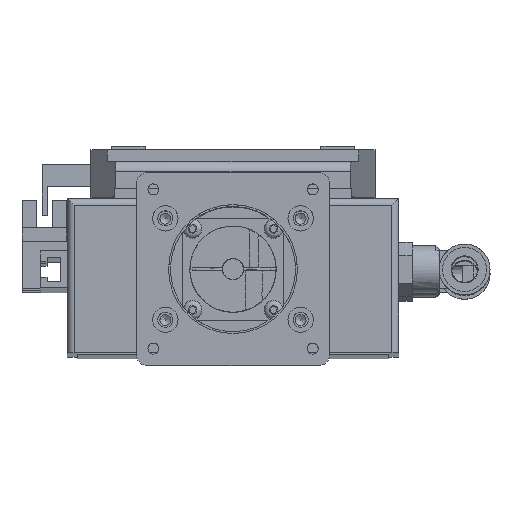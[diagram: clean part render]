
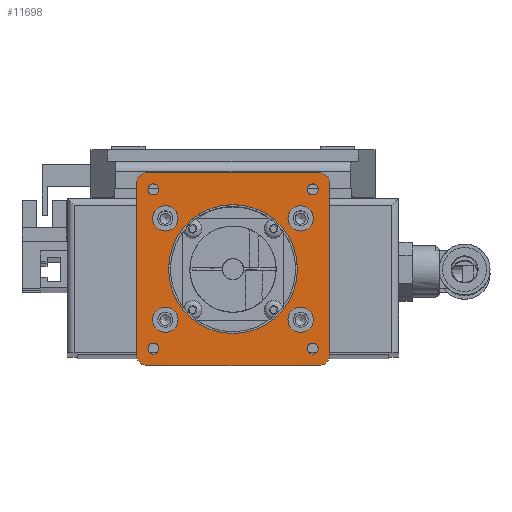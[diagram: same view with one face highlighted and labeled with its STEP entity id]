
A CAD part, top view. The second image highlights one B-rep face of the part: STEP entity #11698.
In plain terms, the highlighted planar face has unit normal (0, 0, 1).
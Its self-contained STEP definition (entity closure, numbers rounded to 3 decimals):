
#11116=CARTESIAN_POINT('',(0.0,3.,0.0));
#11117=VERTEX_POINT('',#11116);
#11124=CARTESIAN_POINT('',(0.0,54.0,0.0));
#11125=VERTEX_POINT('',#11124);
#11126=CARTESIAN_POINT('',(0.0,54.0,0.0));
#11127=DIRECTION('',(0.0,-1.0,0.0));
#11128=VECTOR('',#11127,51.0);
#11129=LINE('',#11126,#11128);
#11130=EDGE_CURVE('',#11125,#11117,#11129,.T.);
#11522=CARTESIAN_POINT('',(3.,0.0,0.0));
#11523=VERTEX_POINT('',#11522);
#11530=CARTESIAN_POINT('',(3.,3.,0.0));
#11531=DIRECTION('',(0.0,0.0,-1.0));
#11532=DIRECTION('',(-0.707,-0.707,0.0));
#11533=AXIS2_PLACEMENT_3D('',#11530,#11531,#11532);
#11534=CIRCLE('',#11533,3.0);
#11535=EDGE_CURVE('',#11523,#11117,#11534,.T.);
#11541=CARTESIAN_POINT('',(28.5,28.5,0.0));
#11542=DIRECTION('',(0.0,0.0,1.0));
#11543=DIRECTION('',(1.0,0.0,0.0));
#11544=AXIS2_PLACEMENT_3D('',#11541,#11542,#11543);
#11545=PLANE('',#11544);
#11546=ORIENTED_EDGE('',*,*,#11535,.F.);
#11547=CARTESIAN_POINT('',(54.0,0.0,0.0));
#11548=VERTEX_POINT('',#11547);
#11549=CARTESIAN_POINT('',(3.,0.0,0.0));
#11550=DIRECTION('',(1.0,0.0,0.0));
#11551=VECTOR('',#11550,51.0);
#11552=LINE('',#11549,#11551);
#11553=EDGE_CURVE('',#11523,#11548,#11552,.T.);
#11554=ORIENTED_EDGE('',*,*,#11553,.T.);
#11555=CARTESIAN_POINT('',(57.0,3.,0.0));
#11556=VERTEX_POINT('',#11555);
#11557=CARTESIAN_POINT('',(54.0,3.,0.0));
#11558=DIRECTION('',(0.0,0.0,-1.));
#11559=DIRECTION('',(0.707,-0.707,0.0));
#11560=AXIS2_PLACEMENT_3D('',#11557,#11558,#11559);
#11561=CIRCLE('',#11560,3.0);
#11562=EDGE_CURVE('',#11556,#11548,#11561,.T.);
#11563=ORIENTED_EDGE('',*,*,#11562,.F.);
#11564=CARTESIAN_POINT('',(57.,54.,0.0));
#11565=VERTEX_POINT('',#11564);
#11566=CARTESIAN_POINT('',(57.0,3.,0.0));
#11567=DIRECTION('',(0.0,1.0,0.0));
#11568=VECTOR('',#11567,51.);
#11569=LINE('',#11566,#11568);
#11570=EDGE_CURVE('',#11556,#11565,#11569,.T.);
#11571=ORIENTED_EDGE('',*,*,#11570,.T.);
#11572=CARTESIAN_POINT('',(54.,57.,0.0));
#11573=VERTEX_POINT('',#11572);
#11574=CARTESIAN_POINT('',(54.,54.,0.0));
#11575=DIRECTION('',(0.0,0.0,-1.));
#11576=DIRECTION('',(0.707,0.707,0.0));
#11577=AXIS2_PLACEMENT_3D('',#11574,#11575,#11576);
#11578=CIRCLE('',#11577,3.);
#11579=EDGE_CURVE('',#11573,#11565,#11578,.T.);
#11580=ORIENTED_EDGE('',*,*,#11579,.F.);
#11581=CARTESIAN_POINT('',(3.,57.0,0.0));
#11582=VERTEX_POINT('',#11581);
#11583=CARTESIAN_POINT('',(54.,57.,0.0));
#11584=DIRECTION('',(-1.0,0.0,0.0));
#11585=VECTOR('',#11584,51.);
#11586=LINE('',#11583,#11585);
#11587=EDGE_CURVE('',#11573,#11582,#11586,.T.);
#11588=ORIENTED_EDGE('',*,*,#11587,.T.);
#11589=CARTESIAN_POINT('',(3.,54.0,0.0));
#11590=DIRECTION('',(0.0,0.0,-1.0));
#11591=DIRECTION('',(-0.707,0.707,0.0));
#11592=AXIS2_PLACEMENT_3D('',#11589,#11590,#11591);
#11593=CIRCLE('',#11592,3.0);
#11594=EDGE_CURVE('',#11125,#11582,#11593,.T.);
#11595=ORIENTED_EDGE('',*,*,#11594,.F.);
#11596=ORIENTED_EDGE('',*,*,#11130,.T.);
#11597=EDGE_LOOP('',(#11546,#11554,#11563,#11571,#11580,#11588,#11595,#11596));
#11598=FACE_OUTER_BOUND('',#11597,.T.);
#11599=CARTESIAN_POINT('',(53.671,4.95,0.0));
#11600=VERTEX_POINT('',#11599);
#11601=CARTESIAN_POINT('',(52.05,4.95,0.0));
#11602=DIRECTION('',(0.0,0.0,-1.0));
#11603=DIRECTION('',(1.0,0.0,0.0));
#11604=AXIS2_PLACEMENT_3D('',#11601,#11602,#11603);
#11605=CIRCLE('',#11604,1.621);
#11606=EDGE_CURVE('',#11600,#11600,#11605,.T.);
#11607=ORIENTED_EDGE('',*,*,#11606,.T.);
#11608=EDGE_LOOP('',(#11607));
#11609=FACE_BOUND('',#11608,.T.);
#11610=CARTESIAN_POINT('',(6.571,52.05,0.0));
#11611=VERTEX_POINT('',#11610);
#11612=CARTESIAN_POINT('',(4.95,52.05,0.0));
#11613=DIRECTION('',(0.0,0.0,-1.0));
#11614=DIRECTION('',(1.0,0.0,0.0));
#11615=AXIS2_PLACEMENT_3D('',#11612,#11613,#11614);
#11616=CIRCLE('',#11615,1.621);
#11617=EDGE_CURVE('',#11611,#11611,#11616,.T.);
#11618=ORIENTED_EDGE('',*,*,#11617,.T.);
#11619=EDGE_LOOP('',(#11618));
#11620=FACE_BOUND('',#11619,.T.);
#11621=CARTESIAN_POINT('',(53.671,52.05,0.0));
#11622=VERTEX_POINT('',#11621);
#11623=CARTESIAN_POINT('',(52.05,52.05,0.0));
#11624=DIRECTION('',(0.0,0.0,-1.0));
#11625=DIRECTION('',(1.0,0.0,0.0));
#11626=AXIS2_PLACEMENT_3D('',#11623,#11624,#11625);
#11627=CIRCLE('',#11626,1.621);
#11628=EDGE_CURVE('',#11622,#11622,#11627,.T.);
#11629=ORIENTED_EDGE('',*,*,#11628,.T.);
#11630=EDGE_LOOP('',(#11629));
#11631=FACE_BOUND('',#11630,.T.);
#11632=CARTESIAN_POINT('',(6.571,4.95,0.0));
#11633=VERTEX_POINT('',#11632);
#11634=CARTESIAN_POINT('',(4.95,4.95,0.0));
#11635=DIRECTION('',(0.0,0.0,-1.0));
#11636=DIRECTION('',(1.0,0.0,0.0));
#11637=AXIS2_PLACEMENT_3D('',#11634,#11635,#11636);
#11638=CIRCLE('',#11637,1.621);
#11639=EDGE_CURVE('',#11633,#11633,#11638,.T.);
#11640=ORIENTED_EDGE('',*,*,#11639,.T.);
#11641=EDGE_LOOP('',(#11640));
#11642=FACE_BOUND('',#11641,.T.);
#11643=CARTESIAN_POINT('',(52.25,13.5,0.0));
#11644=VERTEX_POINT('',#11643);
#11645=CARTESIAN_POINT('',(48.5,13.5,0.0));
#11646=DIRECTION('',(0.0,0.0,-1.0));
#11647=DIRECTION('',(1.0,0.0,0.0));
#11648=AXIS2_PLACEMENT_3D('',#11645,#11646,#11647);
#11649=CIRCLE('',#11648,3.75);
#11650=EDGE_CURVE('',#11644,#11644,#11649,.T.);
#11651=ORIENTED_EDGE('',*,*,#11650,.T.);
#11652=EDGE_LOOP('',(#11651));
#11653=FACE_BOUND('',#11652,.T.);
#11654=CARTESIAN_POINT('',(12.25,43.5,0.0));
#11655=VERTEX_POINT('',#11654);
#11656=CARTESIAN_POINT('',(8.5,43.5,0.0));
#11657=DIRECTION('',(0.0,0.0,-1.0));
#11658=DIRECTION('',(1.0,0.0,0.0));
#11659=AXIS2_PLACEMENT_3D('',#11656,#11657,#11658);
#11660=CIRCLE('',#11659,3.75);
#11661=EDGE_CURVE('',#11655,#11655,#11660,.T.);
#11662=ORIENTED_EDGE('',*,*,#11661,.T.);
#11663=EDGE_LOOP('',(#11662));
#11664=FACE_BOUND('',#11663,.T.);
#11665=CARTESIAN_POINT('',(12.25,13.5,0.0));
#11666=VERTEX_POINT('',#11665);
#11667=CARTESIAN_POINT('',(8.5,13.5,0.0));
#11668=DIRECTION('',(0.0,0.0,-1.0));
#11669=DIRECTION('',(1.0,0.0,0.0));
#11670=AXIS2_PLACEMENT_3D('',#11667,#11668,#11669);
#11671=CIRCLE('',#11670,3.75);
#11672=EDGE_CURVE('',#11666,#11666,#11671,.T.);
#11673=ORIENTED_EDGE('',*,*,#11672,.T.);
#11674=EDGE_LOOP('',(#11673));
#11675=FACE_BOUND('',#11674,.T.);
#11676=CARTESIAN_POINT('',(52.25,43.5,0.0));
#11677=VERTEX_POINT('',#11676);
#11678=CARTESIAN_POINT('',(48.5,43.5,0.0));
#11679=DIRECTION('',(0.0,0.0,-1.0));
#11680=DIRECTION('',(1.0,0.0,0.0));
#11681=AXIS2_PLACEMENT_3D('',#11678,#11679,#11680);
#11682=CIRCLE('',#11681,3.75);
#11683=EDGE_CURVE('',#11677,#11677,#11682,.T.);
#11684=ORIENTED_EDGE('',*,*,#11683,.T.);
#11685=EDGE_LOOP('',(#11684));
#11686=FACE_BOUND('',#11685,.T.);
#11687=CARTESIAN_POINT('',(47.55,28.5,0.0));
#11688=VERTEX_POINT('',#11687);
#11689=CARTESIAN_POINT('',(28.5,28.5,0.0));
#11690=DIRECTION('',(0.0,0.0,-1.0));
#11691=DIRECTION('',(-1.0,0.0,0.0));
#11692=AXIS2_PLACEMENT_3D('',#11689,#11690,#11691);
#11693=CIRCLE('',#11692,19.05);
#11694=EDGE_CURVE('',#11688,#11688,#11693,.T.);
#11695=ORIENTED_EDGE('',*,*,#11694,.T.);
#11696=EDGE_LOOP('',(#11695));
#11697=FACE_BOUND('',#11696,.T.);
#11698=ADVANCED_FACE('',(#11598,#11609,#11620,#11631,#11642,#11653,#11664,#11675,#11686,#11697),#11545,.T.);
